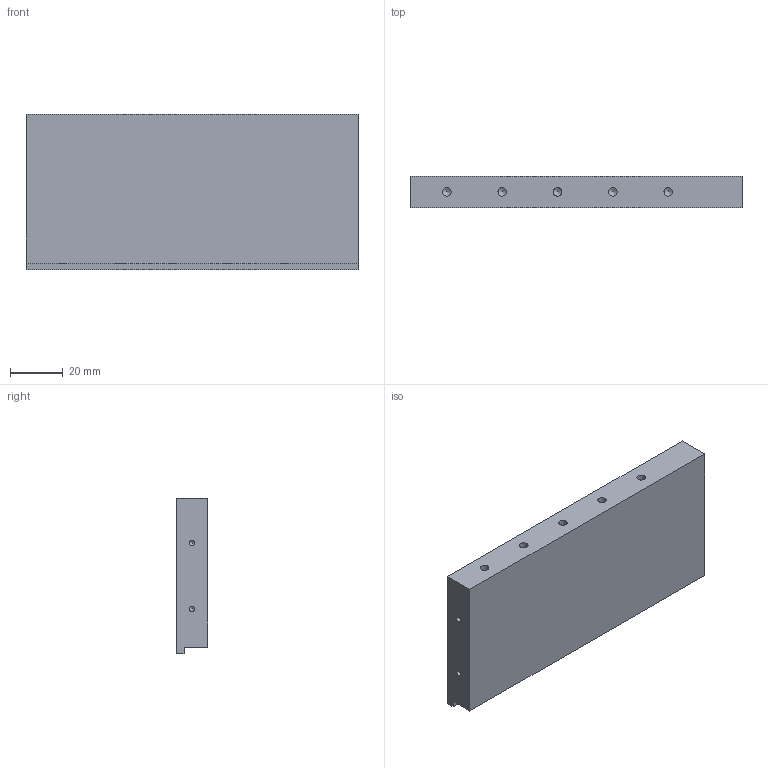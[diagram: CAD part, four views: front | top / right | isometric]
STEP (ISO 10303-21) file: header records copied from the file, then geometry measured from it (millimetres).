
FILE_DESCRIPTION(/* description */ (''),/* implementation_level */ '2;1');
FILE_NAME(/* name */ 'C:\Users\strothej\Documents\ActualDocuments\MicroscopeParts\TwoPhotonSystem\ScanningMechanics\v34\Drawings\Enclosure_Panel7.stp',/* time_stamp */ '2017-09-11T12:12:23-07:00',/* author */ ('strothej'),/* organization */ (''),/* preprocessor_version */ 'ST-DEVELOPER v16.1',/* originating_system */ 'Autodesk Inventor 2016',/* authorisation */ '');
FILE_SCHEMA (('AUTOMOTIVE_DESIGN { 1 0 10303 214 3 1 1 }'));
Length unit declared in the file: millimetre
Products named in the file (1): Enclosure_Panel7
Bounding box: 126 x 12 x 59 mm (x, y, z)
Volume: 85178.8 mm3; surface area: 20728.9 mm2
Topology: 1 solids, 1 shells, 36 faces, 88 edges, 54 vertices
Faces by surface type: cone 14, cylinder 14, plane 8
Full cylindrical faces by diameter (mm): 2.013 x2, 2.459 x5, 3.242 x5, 4.134 x2
Entity records: 806 total; most frequent: DIRECTION 148, CARTESIAN_POINT 123, ORIENTED_EDGE 92, AXIS2_PLACEMENT_3D 65, EDGE_LOOP 64, EDGE_CURVE 46, VERTEX_POINT 40, FACE_OUTER_BOUND 36
